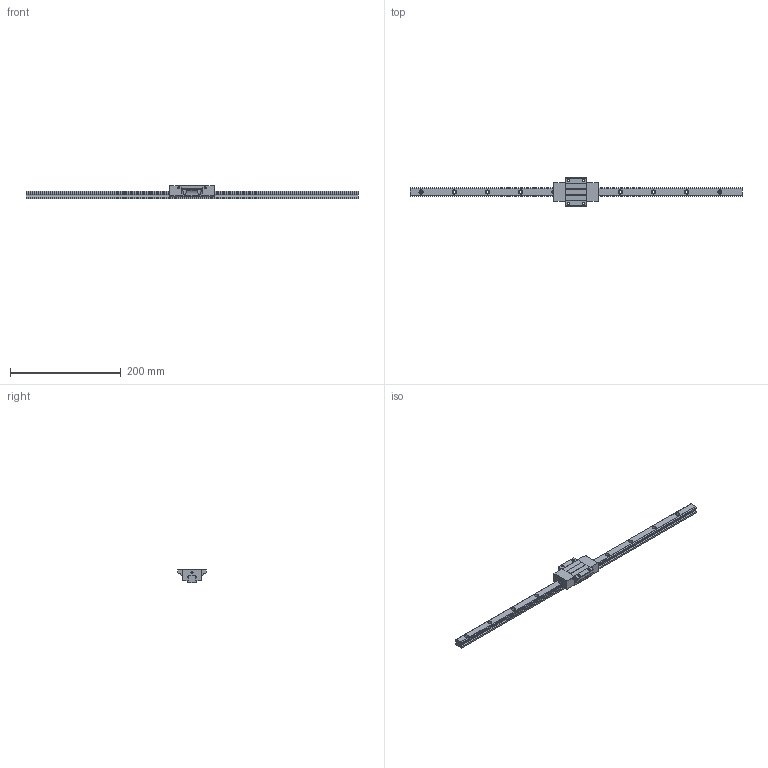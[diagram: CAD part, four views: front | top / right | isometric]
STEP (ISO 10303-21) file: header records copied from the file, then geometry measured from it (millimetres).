
FILE_DESCRIPTION (( 'STEP AP203' ), '1' );
FILE_NAME ('TRS15FN-DZ.STEP', '2024-07-11T03:24:18', ( '' ), ( '' ), 'SwSTEP 2.0', 'SolidWorks 2022', '' );
FILE_SCHEMA (( 'CONFIG_CONTROL_DESIGN' ));
Length unit declared in the file: millimetre
Products named in the file (1): TRS15FN-DZ
Bounding box: 600 x 52 x 24 mm (x, y, z)
Volume: 149559.6 mm3; surface area: 50941.4 mm2
Topology: 2 solids, 2 shells, 238 faces, 638 edges, 416 vertices
Faces by surface type: cylinder 130, plane 104, sphere 4
Entity records: 8103 total; most frequent: CARTESIAN_POINT 1891, DIRECTION 1306, ORIENTED_EDGE 1268, EDGE_CURVE 634, AXIS2_PLACEMENT_3D 467, VERTEX_POINT 416, LINE 372, VECTOR 372
